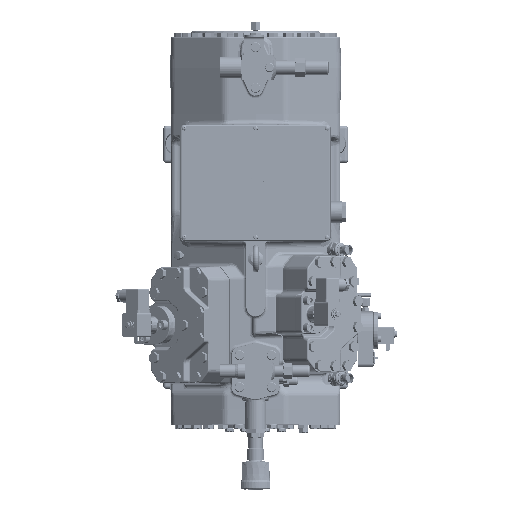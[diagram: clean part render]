
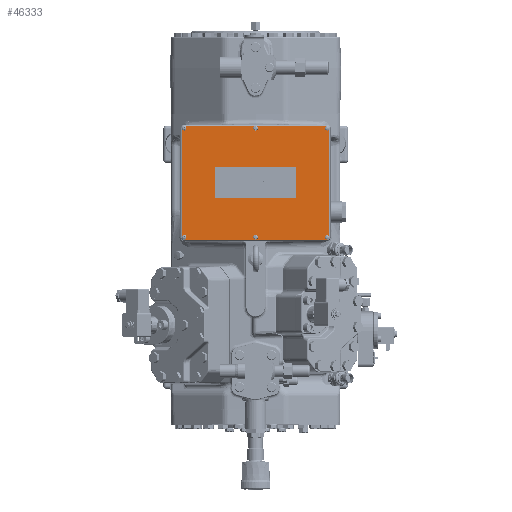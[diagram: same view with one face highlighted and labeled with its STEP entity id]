
A CAD part, top view. The second image highlights one B-rep face of the part: STEP entity #46333.
In plain terms, the highlighted planar face has unit normal (0, 0, 1).
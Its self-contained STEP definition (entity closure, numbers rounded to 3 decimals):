
#46333=ADVANCED_FACE('',(#69179,#69180),#49882,.T.);
#49882=PLANE('',#176978);
#57506=LINE('',#307548,#65939);
#57509=LINE('',#307554,#65942);
#57512=LINE('',#307560,#65945);
#57513=LINE('',#307562,#65946);
#57518=LINE('',#307738,#65951);
#57519=LINE('',#307739,#65952);
#57520=LINE('',#307740,#65953);
#57521=LINE('',#307742,#65954);
#57522=LINE('',#307743,#65955);
#57523=LINE('',#307744,#65956);
#57524=LINE('',#307745,#65957);
#57525=LINE('',#307747,#65958);
#65939=VECTOR('',#214388,1.);
#65942=VECTOR('',#214393,1.);
#65945=VECTOR('',#214398,1.);
#65946=VECTOR('',#214401,1.);
#65951=VECTOR('',#214462,1.);
#65952=VECTOR('',#214463,1.);
#65953=VECTOR('',#214464,1.);
#65954=VECTOR('',#214465,1.);
#65955=VECTOR('',#214466,1.);
#65956=VECTOR('',#214467,1.);
#65957=VECTOR('',#214468,1.);
#65958=VECTOR('',#214469,1.);
#69179=FACE_BOUND('',#80025,.T.);
#69180=FACE_BOUND('',#80026,.T.);
#80025=EDGE_LOOP('',(#121593,#121594,#121595,#121596));
#80026=EDGE_LOOP('',(#121597,#121598,#121599,#121600,#121601,#121602,#121603,
#121604,#121605,#121606,#121607,#121608,#121609,#121610));
#121593=ORIENTED_EDGE('',*,*,#156223,.F.);
#121594=ORIENTED_EDGE('',*,*,#156222,.T.);
#121595=ORIENTED_EDGE('',*,*,#156219,.T.);
#121596=ORIENTED_EDGE('',*,*,#156216,.F.);
#121597=ORIENTED_EDGE('',*,*,#156256,.T.);
#121598=ORIENTED_EDGE('',*,*,#156257,.T.);
#121599=ORIENTED_EDGE('',*,*,#156241,.T.);
#121600=ORIENTED_EDGE('',*,*,#156258,.T.);
#121601=ORIENTED_EDGE('',*,*,#156243,.T.);
#121602=ORIENTED_EDGE('',*,*,#156259,.T.);
#121603=ORIENTED_EDGE('',*,*,#156260,.T.);
#121604=ORIENTED_EDGE('',*,*,#156249,.T.);
#121605=ORIENTED_EDGE('',*,*,#156261,.T.);
#121606=ORIENTED_EDGE('',*,*,#156251,.T.);
#121607=ORIENTED_EDGE('',*,*,#156262,.T.);
#121608=ORIENTED_EDGE('',*,*,#156255,.T.);
#121609=ORIENTED_EDGE('',*,*,#156263,.T.);
#121610=ORIENTED_EDGE('',*,*,#156264,.T.);
#135376=VERTEX_POINT('',#307549);
#135377=VERTEX_POINT('',#307550);
#135378=VERTEX_POINT('',#307555);
#135379=VERTEX_POINT('',#307559);
#135388=VERTEX_POINT('',#307618);
#135389=VERTEX_POINT('',#307619);
#135391=VERTEX_POINT('',#307627);
#135392=VERTEX_POINT('',#307629);
#135394=VERTEX_POINT('',#307659);
#135397=VERTEX_POINT('',#307685);
#135398=VERTEX_POINT('',#307698);
#135399=VERTEX_POINT('',#307699);
#135400=VERTEX_POINT('',#307706);
#135403=VERTEX_POINT('',#307732);
#135404=VERTEX_POINT('',#307736);
#135405=VERTEX_POINT('',#307737);
#135406=VERTEX_POINT('',#307741);
#135407=VERTEX_POINT('',#307746);
#156216=EDGE_CURVE('',#135376,#135377,#57506,.T.);
#156219=EDGE_CURVE('',#135378,#135377,#57509,.T.);
#156222=EDGE_CURVE('',#135379,#135378,#57512,.T.);
#156223=EDGE_CURVE('',#135379,#135376,#57513,.T.);
#156241=EDGE_CURVE('',#135388,#135389,#162455,.T.);
#156243=EDGE_CURVE('',#135392,#135391,#162456,.T.);
#156249=EDGE_CURVE('',#135394,#135397,#162457,.T.);
#156251=EDGE_CURVE('',#135398,#135399,#162458,.T.);
#156255=EDGE_CURVE('',#135400,#135403,#162459,.T.);
#156256=EDGE_CURVE('',#135404,#135405,#162460,.T.);
#156257=EDGE_CURVE('',#135405,#135388,#57518,.T.);
#156258=EDGE_CURVE('',#135389,#135392,#57519,.T.);
#156259=EDGE_CURVE('',#135391,#135406,#57520,.T.);
#156260=EDGE_CURVE('',#135406,#135394,#57521,.T.);
#156261=EDGE_CURVE('',#135397,#135398,#57522,.T.);
#156262=EDGE_CURVE('',#135399,#135400,#57523,.T.);
#156263=EDGE_CURVE('',#135403,#135407,#57524,.T.);
#156264=EDGE_CURVE('',#135407,#135404,#57525,.T.);
#162455=CIRCLE('',#176967,3.7);
#162456=CIRCLE('',#176969,3.7);
#162457=CIRCLE('',#176971,3.7);
#162458=CIRCLE('',#176973,3.7);
#162459=CIRCLE('',#176975,3.7);
#162460=CIRCLE('',#176977,3.7);
#176967=AXIS2_PLACEMENT_3D('',#307620,#214440,#214441);
#176969=AXIS2_PLACEMENT_3D('',#307628,#214444,#214445);
#176971=AXIS2_PLACEMENT_3D('',#307686,#214448,#214449);
#176973=AXIS2_PLACEMENT_3D('',#307700,#214452,#214453);
#176975=AXIS2_PLACEMENT_3D('',#307733,#214456,#214457);
#176977=AXIS2_PLACEMENT_3D('',#307735,#214460,#214461);
#176978=AXIS2_PLACEMENT_3D('',#307748,#214470,#214471);
#214388=DIRECTION('',(-1.,0.,0.));
#214393=DIRECTION('',(0.,1.,0.));
#214398=DIRECTION('',(-1.,0.,0.));
#214401=DIRECTION('',(0.,1.,0.));
#214440=DIRECTION('',(0.,0.,-1.));
#214441=DIRECTION('',(1.,0.,0.));
#214444=DIRECTION('',(0.,0.,-1.));
#214445=DIRECTION('',(1.,0.,0.));
#214448=DIRECTION('',(0.,0.,-1.));
#214449=DIRECTION('',(1.,0.,0.));
#214452=DIRECTION('',(0.,0.,-1.));
#214453=DIRECTION('',(1.,0.,0.));
#214456=DIRECTION('',(0.,0.,-1.));
#214457=DIRECTION('',(1.,0.,0.));
#214460=DIRECTION('',(0.,0.,-1.));
#214461=DIRECTION('',(1.,0.,0.));
#214462=DIRECTION('',(1.,0.,0.));
#214463=DIRECTION('',(1.,0.,0.));
#214464=DIRECTION('',(0.,1.,0.));
#214465=DIRECTION('',(0.,1.,0.));
#214466=DIRECTION('',(-1.,0.,0.));
#214467=DIRECTION('',(-1.,0.,0.));
#214468=DIRECTION('',(0.,-1.,0.));
#214469=DIRECTION('',(0.,-1.,0.));
#214470=DIRECTION('',(0.,0.,1.));
#214471=DIRECTION('',(-1.,0.,0.));
#307548=CARTESIAN_POINT('',(71.831,25.,85.111));
#307549=CARTESIAN_POINT('',(71.831,25.,85.111));
#307550=CARTESIAN_POINT('',(-59.169,25.,85.111));
#307554=CARTESIAN_POINT('',(-59.169,-25.,85.111));
#307555=CARTESIAN_POINT('',(-59.169,-25.,85.111));
#307559=CARTESIAN_POINT('',(71.831,-25.,85.111));
#307560=CARTESIAN_POINT('',(71.831,-25.,85.111));
#307562=CARTESIAN_POINT('',(71.831,-25.,85.111));
#307618=CARTESIAN_POINT('',(5.781,-92.159,85.111));
#307619=CARTESIAN_POINT('',(6.881,-92.159,85.111));
#307620=CARTESIAN_POINT('',(6.331,-88.5,85.111));
#307627=CARTESIAN_POINT('',(125.99,-87.95,85.111));
#307628=CARTESIAN_POINT('',(122.331,-88.5,85.111));
#307629=CARTESIAN_POINT('',(121.781,-92.159,85.111));
#307659=CARTESIAN_POINT('',(125.99,87.95,85.111));
#307685=CARTESIAN_POINT('',(121.781,92.159,85.111));
#307686=CARTESIAN_POINT('',(122.331,88.5,85.111));
#307698=CARTESIAN_POINT('',(6.881,92.159,85.111));
#307699=CARTESIAN_POINT('',(5.781,92.159,85.111));
#307700=CARTESIAN_POINT('',(6.331,88.5,85.111));
#307706=CARTESIAN_POINT('',(-109.119,92.159,85.111));
#307732=CARTESIAN_POINT('',(-113.328,87.95,85.111));
#307733=CARTESIAN_POINT('',(-109.669,88.5,85.111));
#307735=CARTESIAN_POINT('',(-109.669,-88.5,85.111));
#307736=CARTESIAN_POINT('',(-113.328,-87.95,85.111));
#307737=CARTESIAN_POINT('',(-109.119,-92.159,85.111));
#307738=CARTESIAN_POINT('',(6.331,-92.159,85.111));
#307739=CARTESIAN_POINT('',(6.331,-92.159,85.111));
#307740=CARTESIAN_POINT('',(125.99,0.,85.111));
#307741=CARTESIAN_POINT('',(125.99,0.,85.111));
#307742=CARTESIAN_POINT('',(125.99,0.,85.111));
#307743=CARTESIAN_POINT('',(6.331,92.159,85.111));
#307744=CARTESIAN_POINT('',(6.331,92.159,85.111));
#307745=CARTESIAN_POINT('',(-113.328,0.,85.111));
#307746=CARTESIAN_POINT('',(-113.328,0.,85.111));
#307747=CARTESIAN_POINT('',(-113.328,0.,85.111));
#307748=CARTESIAN_POINT('',(6.331,0.,85.111));
